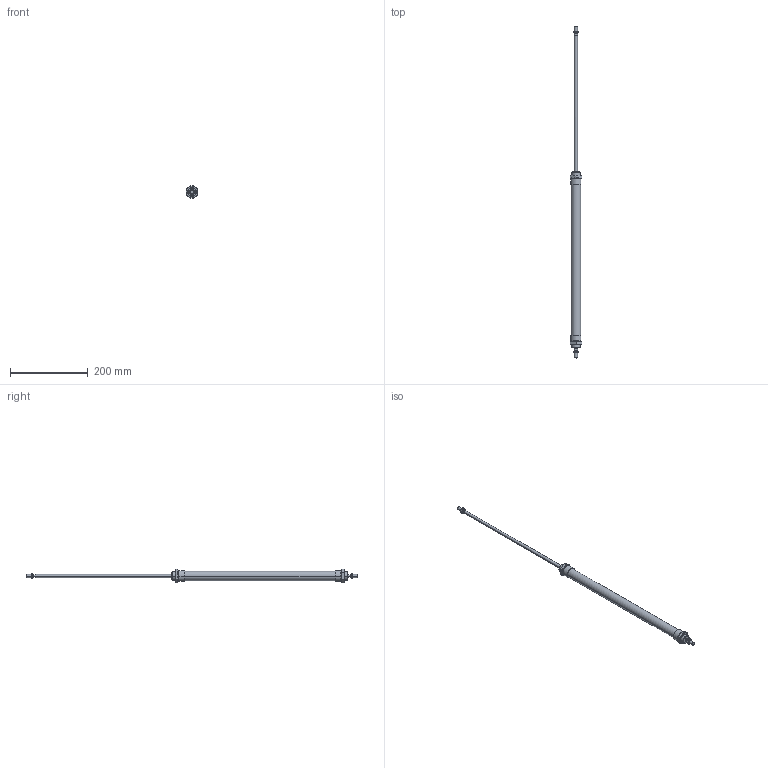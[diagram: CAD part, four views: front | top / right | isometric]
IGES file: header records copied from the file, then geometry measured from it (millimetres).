
Global section: file name: No Iges File Name specified; native system: AutoDesk Inventor R6.0; preprocessor: AutoDesk Inventor Iges Exporter R6.0; author: No Author specified; organization: No Organization specified; date: 20030403.072405; units: millimetre
Bounding box: 30 x 856 x 34.64 mm (x, y, z)
Volume: 233348.6 mm3; surface area: 73962.9 mm2
Topology: 6 solids, 6 shells, 186 faces, 414 edges, 244 vertices
Faces by surface type: cone 68, plane 60, bspline 32, cylinder 20, revolution 6
